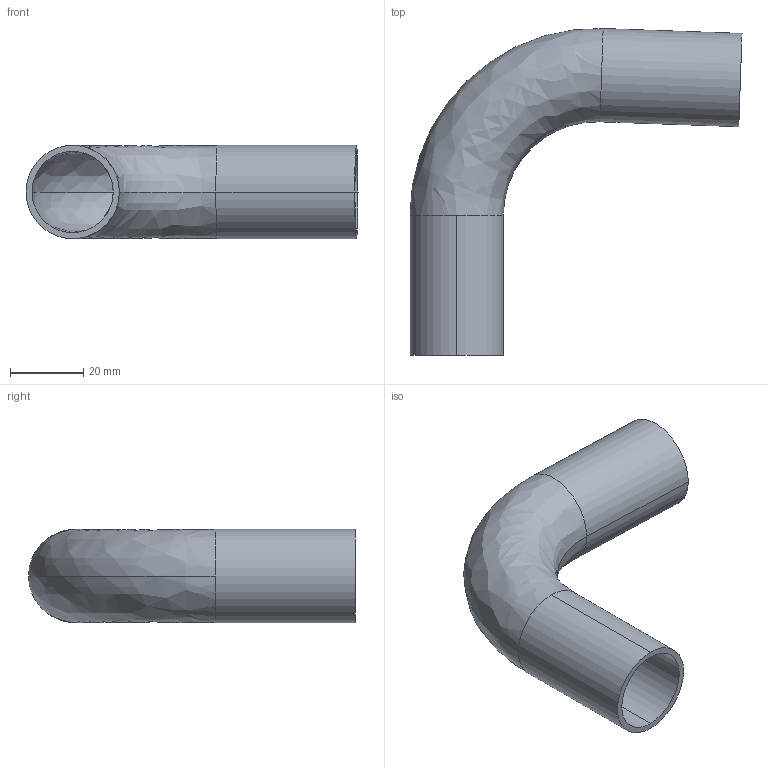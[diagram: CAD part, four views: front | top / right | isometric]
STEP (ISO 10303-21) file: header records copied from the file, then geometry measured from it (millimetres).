
FILE_DESCRIPTION (( 'STEP AP214' ), '1' );
FILE_NAME ('TE2S926L1.0-...STEP', '2016-05-22T11:20:29', ( 'eran' ), ( '' ), 'SwSTEP 2.0', 'SolidWorks 2016', '' );
FILE_SCHEMA (( 'AUTOMOTIVE_DESIGN' ));
Length unit declared in the file: millimetre
Products named in the file (1): TE2S926L1.0-..
Bounding box: 90.36 x 88.94 x 25.4 mm (x, y, z)
Volume: 16886.4 mm3; surface area: 20714.5 mm2
Topology: 1 solids, 1 shells, 14 faces, 32 edges, 20 vertices
Faces by surface type: cylinder 8, bspline 4, plane 2
Entity records: 490 total; most frequent: CARTESIAN_POINT 127, DIRECTION 78, ORIENTED_EDGE 64, AXIS2_PLACEMENT_3D 35, EDGE_CURVE 32, CIRCLE 24, VERTEX_POINT 20, EDGE_LOOP 16
